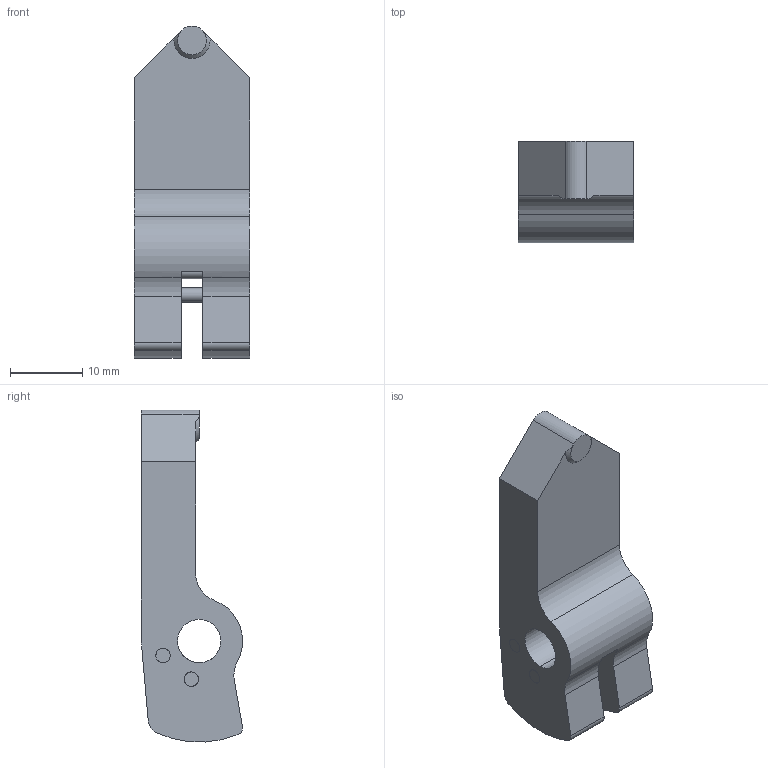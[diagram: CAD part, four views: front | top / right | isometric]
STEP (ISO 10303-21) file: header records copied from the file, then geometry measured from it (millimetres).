
FILE_DESCRIPTION (( 'STEP AP203' ), '1' );
FILE_NAME ('101308_Spannhebel.STEP', '2013-04-19T08:18:54', ( '' ), ( '' ), 'SwSTEP 2.0', 'SolidWorks 2010', '' );
FILE_SCHEMA (( 'CONFIG_CONTROL_DESIGN' ));
Length unit declared in the file: millimetre
Products named in the file (3): 101308_Spannhebel; 101308_Spannhebel_Default; 101308_Stift
Assembly tree (3 placements, depth 2):
  101308_Spannhebel
    101308_Stift  x2
    101308_Spannhebel_Default
Bounding box: 16 x 14 x 45.97 mm (x, y, z)
Volume: 5904.1 mm3; surface area: 3330.3 mm2
Topology: 3 solids, 3 shells, 44 faces, 124 edges, 82 vertices
Faces by surface type: cylinder 24, plane 19, cone 1
Entity records: 1731 total; most frequent: DIRECTION 264, CARTESIAN_POINT 254, ORIENTED_EDGE 236, EDGE_CURVE 118, AXIS2_PLACEMENT_3D 102, VERTEX_POINT 78, VECTOR 60, LINE 60
